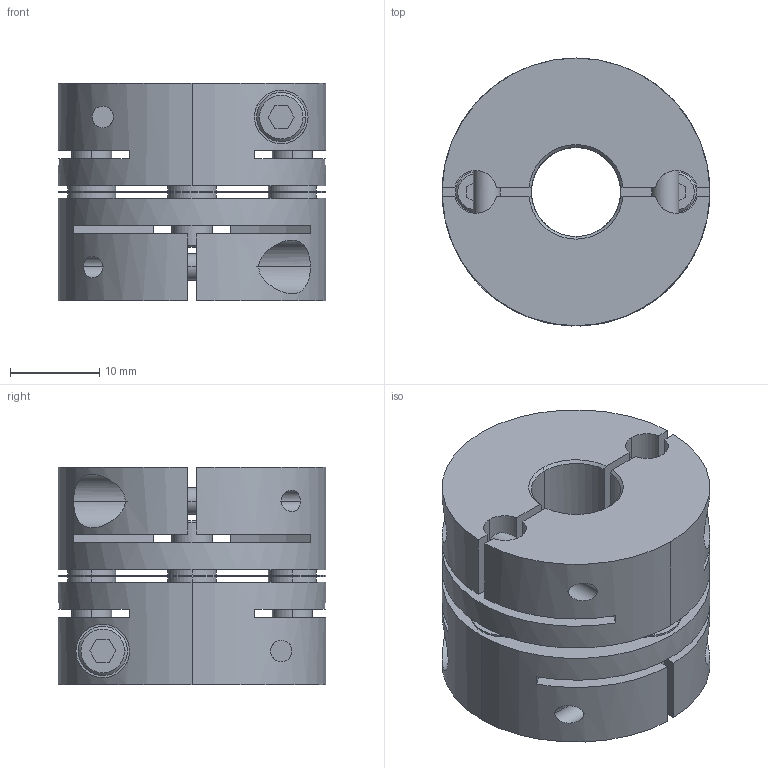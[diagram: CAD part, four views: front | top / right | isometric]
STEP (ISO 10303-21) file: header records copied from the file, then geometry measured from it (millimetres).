
FILE_DESCRIPTION((''),'2;1');
FILE_NAME('LAS-30C-10×10.stp','2011-08-10T13:17:41',(''),(''),'AutoCAD STEP 2000i','AutoCAD 2000i',', , ');
FILE_SCHEMA(('CONFIG_CONTROL_DESIGN'));
Length unit declared in the file: millimetre
Products named in the file (7): LAS-30C-10×10; 忣兜1; LA-3002-D10-1; LA-3002-D10; LA-3002-D06-1; LA-3002-D06; LAS30-ITA
Assembly tree (6 placements, depth 2):
  LAS-30C-10×10
    忣兜1
    LA-3002-D10-1
    LA-3002-D10
    LA-3002-D06-1
    LA-3002-D06
    LAS30-ITA
Bounding box: 30 x 30 x 24.4 mm (x, y, z)
Volume: 12746.9 mm3; surface area: 9135.5 mm2
Topology: 1 solids, 1 shells, 244 faces, 648 edges, 424 vertices
Faces by surface type: plane 112, cylinder 104, cone 28
Entity records: 8527 total; most frequent: CARTESIAN_POINT 2123, DIRECTION 1330, ORIENTED_EDGE 1296, EDGE_CURVE 648, AXIS2_PLACEMENT_3D 487, VERTEX_POINT 424, VECTOR 356, LINE 356
